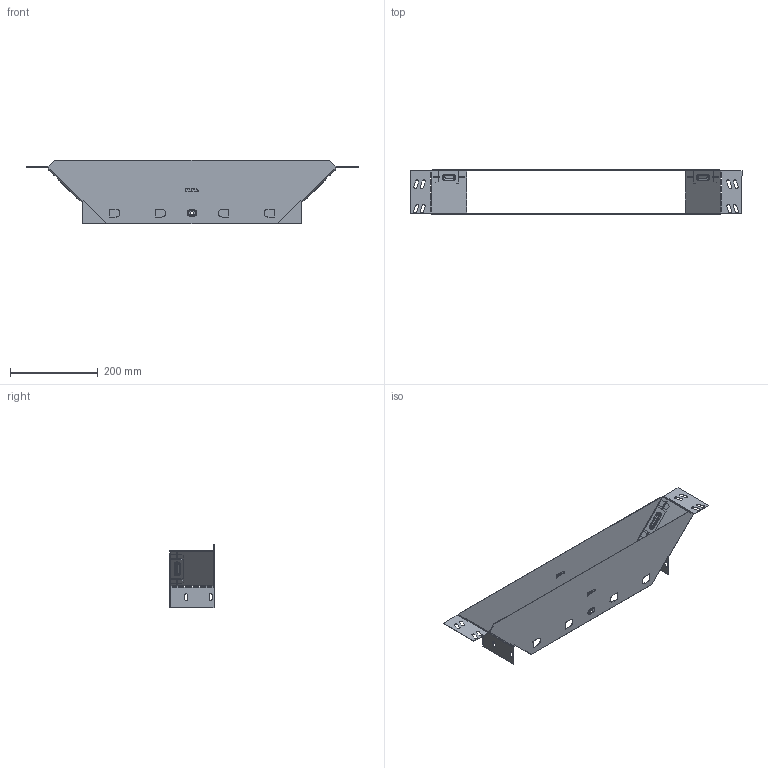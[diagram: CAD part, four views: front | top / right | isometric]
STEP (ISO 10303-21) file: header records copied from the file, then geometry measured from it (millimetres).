
FILE_DESCRIPTION (( 'STEP AP214' ), '1' );
FILE_NAME ('tn10050008_捘.STEP', '2019-06-10T08:02:16', ( '砐錪賧瘔蠈錪 Windows' ), ( '' ), 'SwSTEP 2.0', 'SolidWorks 2018', '' );
FILE_SCHEMA (( 'AUTOMOTIVE_DESIGN' ));
Length unit declared in the file: millimetre
Products named in the file (1): tn10050008_捘
Bounding box: 756.02 x 103.8 x 144 mm (x, y, z)
Volume: 152721.2 mm3; surface area: 386576.7 mm2
Topology: 2 solids, 2 shells, 714 faces, 2042 edges, 1292 vertices
Faces by surface type: plane 432, cylinder 216, torus 48, bspline 18
Entity records: 24117 total; most frequent: CARTESIAN_POINT 5007, ORIENTED_EDGE 4084, DIRECTION 3904, EDGE_CURVE 2042, LINE 1502, VECTOR 1502, VERTEX_POINT 1292, AXIS2_PLACEMENT_3D 1201
